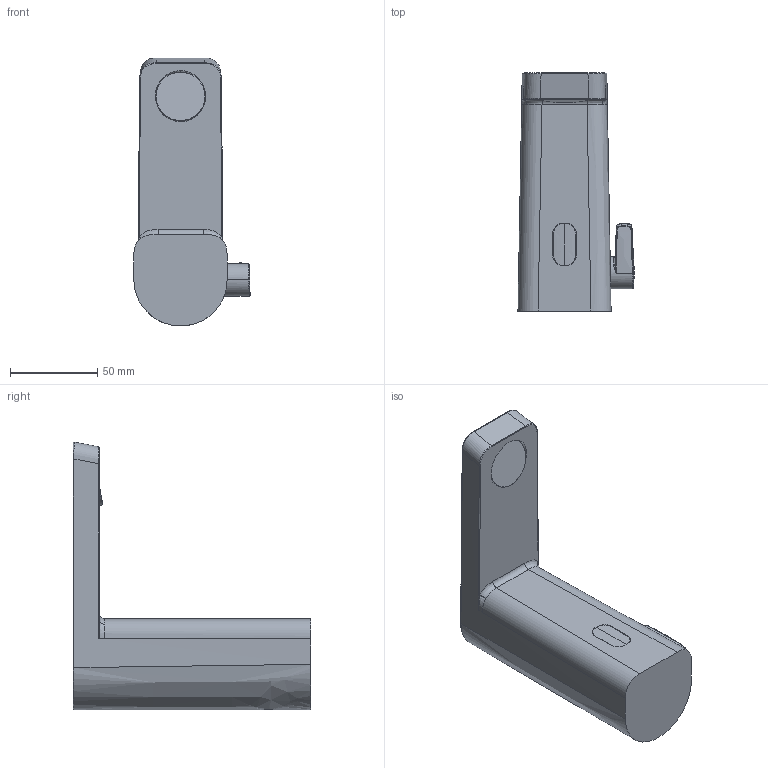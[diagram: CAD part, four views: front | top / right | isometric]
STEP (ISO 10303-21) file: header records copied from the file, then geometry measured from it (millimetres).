
FILE_DESCRIPTION (( 'STEP AP203' ), '1' );
FILE_NAME ('4814FZ(2023)+4814FZ-104(2023)+4814FZ-105(2023)+57162279(2023)+571622790004(2023)+571622790005(2023).STEP', '2024-09-26T08:34:21', ( '' ), ( '' ), 'SwSTEP 2.0', 'SolidWorks 2024', '' );
FILE_SCHEMA (( 'CONFIG_CONTROL_DESIGN' ));
Length unit declared in the file: millimetre
Products named in the file (1): 4814FZ(2023)+4814FZ-104(2023)+4814FZ-105(2023)+57162279(2023)+571622790004(2023)+571622790005(2023)
Bounding box: 66.38 x 136 x 153.18 mm (x, y, z)
Volume: 391634 mm3; surface area: 42737.5 mm2
Topology: 1 solids, 1 shells, 89 faces, 214 edges, 132 vertices
Faces by surface type: bspline 56, plane 18, cylinder 13, torus 2
Entity records: 6408 total; most frequent: CARTESIAN_POINT 4696, ORIENTED_EDGE 428, EDGE_CURVE 214, DIRECTION 193, VERTEX_POINT 132, B_SPLINE_CURVE_WITH_KNOTS 112, EDGE_LOOP 94, ADVANCED_FACE 89
